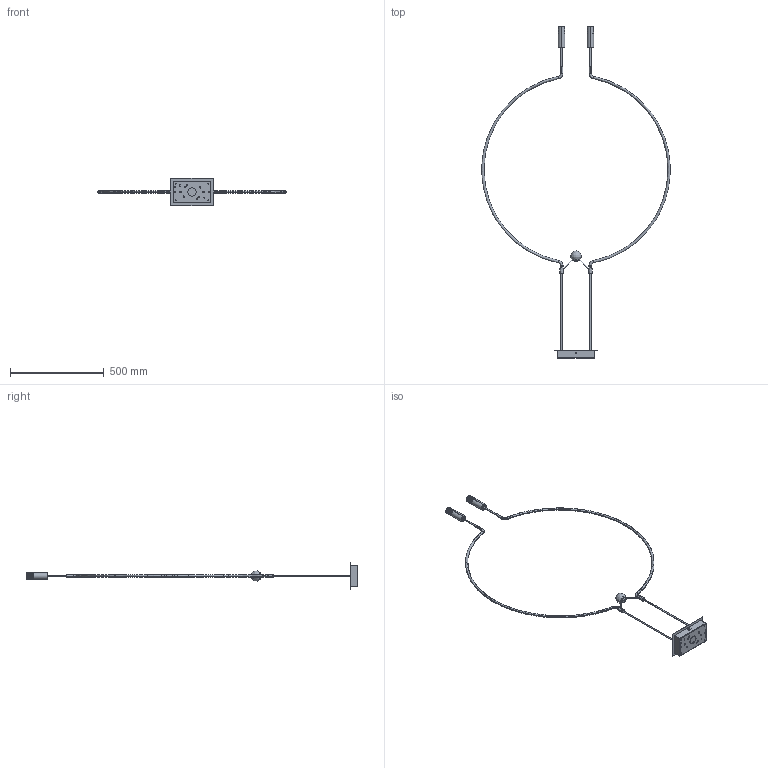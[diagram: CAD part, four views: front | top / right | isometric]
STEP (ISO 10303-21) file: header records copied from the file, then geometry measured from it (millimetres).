
FILE_DESCRIPTION (( 'STEP AP203' ), '1' );
FILE_NAME ('SPLIAIG2XXXXXXX.STEP', '2025-11-14T18:29:04', ( '' ), ( '' ), 'SwSTEP 2.0', 'SolidWorks 2024', '' );
FILE_SCHEMA (( 'CONFIG_CONTROL_DESIGN' ));
Length unit declared in the file: millimetre
Products named in the file (12): 1.0C.AXO01.LS06.05.IGS; Dado Autoagganciante PS_DADO AUTOAGGANCIANTE PS M4.IGS; SPLIAIG2XXXXLED-3D.IGS; O Rings_O RING Øi. 20.35 Sp. 1.78.IGS; SPLIAIG2XXXXLED-PENDENTE.IGS; 1.0C.AXO01.LS07.01.IGS; SPLIAIG2XXXXXXX; Faston Maschio ''A''_CONNETTORE AD INNESTO MASCHIO 45°.IGS_1.IGS; Viti Testa Cilindrica Cava Esagonale_VITE M4X20 TCCE.IGS; 1.0C.AXO01.LS04.02.IGS; 1.0C.AXO01.LS04.01.IGS; 1.0C.AXO01.LS07.02.IGS
Assembly tree (14 placements, depth 3):
  SPLIAIG2XXXXXXX
    SPLIAIG2XXXXLED-3D.IGS
      1.0C.AXO01.LS07.01.IGS
      1.0C.AXO01.LS07.02.IGS
      1.0C.AXO01.LS06.05.IGS  x2
      Dado Autoagganciante PS_DADO AUTOAGGANCIANTE PS M4.IGS  x2
      Faston Maschio ''A''_CONNETTORE AD INNESTO MASCHIO 45°.IGS_1.IGS
      SPLIAIG2XXXXLED-PENDENTE.IGS  x2
      1.0C.AXO01.LS04.01.IGS
      1.0C.AXO01.LS04.02.IGS
      O Rings_O RING Øi. 20.35 Sp. 1.78.IGS
      Viti Testa Cilindrica Cava Esagonale_VITE M4X20 TCCE.IGS
Bounding box: 1005 x 1770.12 x 145 mm (x, y, z)
Volume: 561982.8 mm3; surface area: 547201.9 mm2
Topology: 39 solids, 39 shells, 720 faces, 1684 edges, 1053 vertices
Faces by surface type: bspline 486, plane 234
Entity records: 24169 total; most frequent: CARTESIAN_POINT 12092, ORIENTED_EDGE 2426, DIRECTION 1930, EDGE_CURVE 1213, VERTEX_POINT 765, AXIS2_PLACEMENT_3D 678, EDGE_LOOP 630, VECTOR 574
